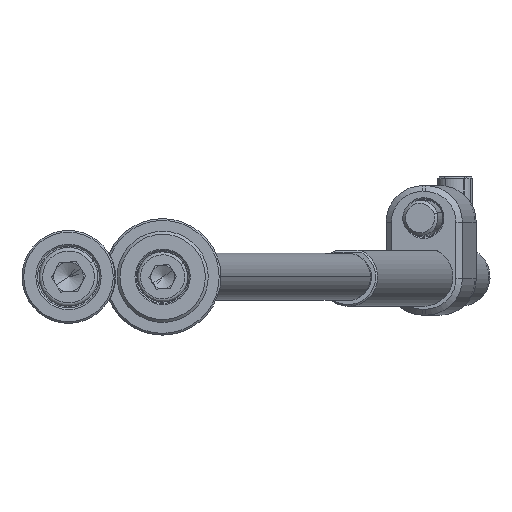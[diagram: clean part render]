
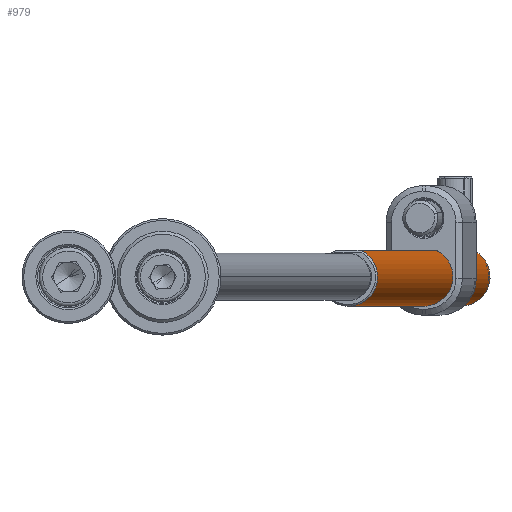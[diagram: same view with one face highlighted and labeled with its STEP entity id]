
A CAD part, front view. The second image highlights one B-rep face of the part: STEP entity #979.
In plain terms, the highlighted cylindrical face has radius 5 mm (diameter 10 mm), a partial arc.
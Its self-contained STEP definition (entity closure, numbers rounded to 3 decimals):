
#303 = CIRCLE ( 'NONE', #10869, 5. ) ;
#441 = DIRECTION ( 'NONE',  ( 0., 0., 1. ) ) ;
#463 = VERTEX_POINT ( 'NONE', #5710 ) ;
#737 = CARTESIAN_POINT ( 'NONE',  ( -5., 0., 200. ) ) ;
#979 = ADVANCED_FACE ( 'NONE', ( #7659 ), #2225, .T. ) ;
#1007 = DIRECTION ( 'NONE',  ( 0., 0., -1. ) ) ;
#1016 = VERTEX_POINT ( 'NONE', #5325 ) ;
#1405 = CARTESIAN_POINT ( 'NONE',  ( 0., 0., 0.3 ) ) ;
#1516 = CARTESIAN_POINT ( 'NONE',  ( 4.203, -2.709, 11.303 ) ) ;
#2090 = EDGE_CURVE ( 'NONE', #7281, #7950, #6414, .T. ) ;
#2225 = CYLINDRICAL_SURFACE ( 'NONE', #11629, 5. ) ;
#2598 = CARTESIAN_POINT ( 'NONE',  ( 4., -3., 9.809 ) ) ;
#2623 = ORIENTED_EDGE ( 'NONE', *, *, #12936, .T. ) ;
#2768 = VERTEX_POINT ( 'NONE', #4796 ) ;
#3314 = CARTESIAN_POINT ( 'NONE',  ( 4.5, -2.179, 12.062 ) ) ;
#3352 = B_SPLINE_CURVE_WITH_KNOTS ( 'NONE', 3,
 ( #10405, #8111, #13705, #3746, #1516, #4884, #12567, #8175, #11559, #2598, #5107, #11486, #3954, #12709, #12494, #5973, #13616, #9343 ),
 .UNSPECIFIED., .F., .F.,
 ( 4, 2, 2, 2, 2, 2, 2, 2, 4 ),
 ( 0., 0.001, 0.001, 0.002, 0.002, 0.003, 0.003, 0.004, 0.005 ),
 .UNSPECIFIED. ) ;
#3466 = DIRECTION ( 'NONE',  ( 0., 0., -1. ) ) ;
#3468 = LINE ( 'NONE', #6788, #12121 ) ;
#3592 = VERTEX_POINT ( 'NONE', #8096 ) ;
#3746 = CARTESIAN_POINT ( 'NONE',  ( 4.259, -2.621, 11.47 ) ) ;
#3804 = ORIENTED_EDGE ( 'NONE', *, *, #11791, .T. ) ;
#3954 = CARTESIAN_POINT ( 'NONE',  ( 4.107, -2.852, 9.051 ) ) ;
#4121 = CARTESIAN_POINT ( 'NONE',  ( 4.5, -2.179, 199.7 ) ) ;
#4202 = ORIENTED_EDGE ( 'NONE', *, *, #2090, .F. ) ;
#4796 = CARTESIAN_POINT ( 'NONE',  ( 4.5, -2.179, 0.3 ) ) ;
#4823 = DIRECTION ( 'NONE',  ( 1., 0., 0. ) ) ;
#4884 = CARTESIAN_POINT ( 'NONE',  ( 4.108, -2.851, 10.952 ) ) ;
#5107 = CARTESIAN_POINT ( 'NONE',  ( 4.014, -2.982, 9.617 ) ) ;
#5325 = CARTESIAN_POINT ( 'NONE',  ( -5., 0., 199.7 ) ) ;
#5396 = ORIENTED_EDGE ( 'NONE', *, *, #6412, .T. ) ;
#5710 = CARTESIAN_POINT ( 'NONE',  ( 4.5, -2.179, 7.938 ) ) ;
#5973 = CARTESIAN_POINT ( 'NONE',  ( 4.376, -2.422, 8.22 ) ) ;
#6184 = LINE ( 'NONE', #737, #9195 ) ;
#6352 = DIRECTION ( 'NONE',  ( 1., 0., 0. ) ) ;
#6412 = EDGE_CURVE ( 'NONE', #3592, #2768, #7531, .T. ) ;
#6414 = LINE ( 'NONE', #10819, #10951 ) ;
#6653 = DIRECTION ( 'NONE',  ( -1., 0., 0. ) ) ;
#6788 = CARTESIAN_POINT ( 'NONE',  ( 4.5, -2.179, 200. ) ) ;
#7281 = VERTEX_POINT ( 'NONE', #4121 ) ;
#7531 = CIRCLE ( 'NONE', #8457, 5. ) ;
#7659 = FACE_OUTER_BOUND ( 'NONE', #12997, .T. ) ;
#7950 = VERTEX_POINT ( 'NONE', #3314 ) ;
#8096 = CARTESIAN_POINT ( 'NONE',  ( -5., 0., 0.3 ) ) ;
#8111 = CARTESIAN_POINT ( 'NONE',  ( 4.438, -2.307, 11.926 ) ) ;
#8175 = CARTESIAN_POINT ( 'NONE',  ( 4.015, -2.98, 10.396 ) ) ;
#8457 = AXIS2_PLACEMENT_3D ( 'NONE', #1405, #441, #4823 ) ;
#8602 = DIRECTION ( 'NONE',  ( 0., 0., -1. ) ) ;
#8654 = CARTESIAN_POINT ( 'NONE',  ( 0., 0., 199.7 ) ) ;
#8916 = EDGE_CURVE ( 'NONE', #463, #2768, #3468, .T. ) ;
#8991 = EDGE_CURVE ( 'NONE', #7950, #463, #3352, .T. ) ;
#9195 = VECTOR ( 'NONE', #8602, 1000. ) ;
#9343 = CARTESIAN_POINT ( 'NONE',  ( 4.5, -2.179, 7.938 ) ) ;
#10168 = DIRECTION ( 'NONE',  ( 0., 0., -1. ) ) ;
#10405 = CARTESIAN_POINT ( 'NONE',  ( 4.5, -2.179, 12.062 ) ) ;
#10695 = ORIENTED_EDGE ( 'NONE', *, *, #8916, .F. ) ;
#10819 = CARTESIAN_POINT ( 'NONE',  ( 4.5, -2.179, 200. ) ) ;
#10869 = AXIS2_PLACEMENT_3D ( 'NONE', #8654, #10882, #6352 ) ;
#10882 = DIRECTION ( 'NONE',  ( 0., 0., -1. ) ) ;
#10951 = VECTOR ( 'NONE', #1007, 1000. ) ;
#11486 = CARTESIAN_POINT ( 'NONE',  ( 4.068, -2.908, 9.236 ) ) ;
#11559 = CARTESIAN_POINT ( 'NONE',  ( 4., -3., 10.198 ) ) ;
#11629 = AXIS2_PLACEMENT_3D ( 'NONE', #14135, #3466, #6653 ) ;
#11791 = EDGE_CURVE ( 'NONE', #7281, #1016, #303, .T. ) ;
#12121 = VECTOR ( 'NONE', #10168, 1000. ) ;
#12494 = CARTESIAN_POINT ( 'NONE',  ( 4.258, -2.623, 8.532 ) ) ;
#12567 = CARTESIAN_POINT ( 'NONE',  ( 4.069, -2.906, 10.771 ) ) ;
#12709 = CARTESIAN_POINT ( 'NONE',  ( 4.202, -2.711, 8.701 ) ) ;
#12936 = EDGE_CURVE ( 'NONE', #1016, #3592, #6184, .T. ) ;
#12997 = EDGE_LOOP ( 'NONE', ( #3804, #2623, #5396, #10695, #14068, #4202 ) ) ;
#13616 = CARTESIAN_POINT ( 'NONE',  ( 4.438, -2.308, 8.074 ) ) ;
#13705 = CARTESIAN_POINT ( 'NONE',  ( 4.376, -2.421, 11.781 ) ) ;
#14068 = ORIENTED_EDGE ( 'NONE', *, *, #8991, .F. ) ;
#14135 = CARTESIAN_POINT ( 'NONE',  ( 0., 0., 200. ) ) ;
